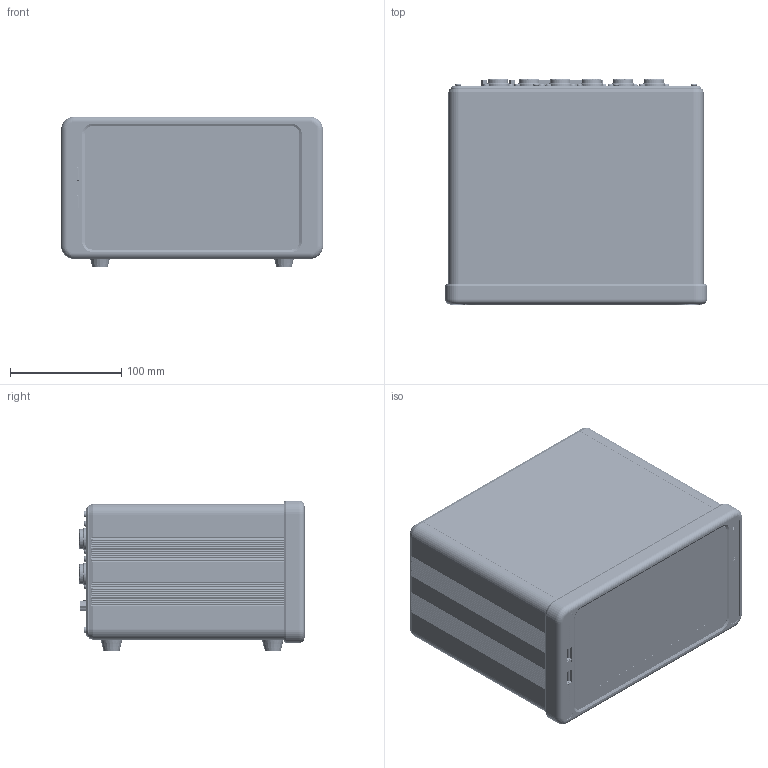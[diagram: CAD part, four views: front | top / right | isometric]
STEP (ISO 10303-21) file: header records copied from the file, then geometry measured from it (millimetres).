
FILE_DESCRIPTION(('STEP AP203'),'1');
FILE_NAME('WB-120N.stp','2023-04-04T02:16:44',(' '),(' '),'Spatial InterOp 3D',' ',' ');
FILE_SCHEMA(('CONFIG_CONTROL_DESIGN'));
Length unit declared in the file: millimetre
Products named in the file (28): 220208_WB40N_HBT_EX_ASM; 220209_40N_BOLT-M3_6; 190219_WB40N_CONNECTOR_RING; 190219_WB40N_CUBE_CONNECTOR; 190219_WB40N_CASE_HBT_REAR; WB-120N; 220209_120N_BOLT-M3_6; 120G_CASE_TOP; 120G_CASE_SIDE; 120G_CASE_BOTTOM; 120N_CASE_REAR; D-SUB37P; D-SUB9P; 220214_WB40N_ADAPTER; 220214_WB40N_SWITCH; 120N_FOOT; 120G_FRONT_LCD; 120G_CASE_FRONT; 120N_SILK; 120N_SILK_MODEL; 120G_USB_CONNECTOR
Assembly tree (48 placements, depth 3):
  WB-120N
    220208_WB40N_HBT_EX_ASM  x12
      220209_40N_BOLT-M3_6
      190219_WB40N_CONNECTOR_RING
      190219_WB40N_CUBE_CONNECTOR
      190219_WB40N_CASE_HBT_REAR
    220209_120N_BOLT-M3_6  x8
    120G_CASE_TOP
    120G_CASE_SIDE  x2
    120G_CASE_BOTTOM
    120N_CASE_REAR
    D-SUB37P
    D-SUB9P
    220214_WB40N_ADAPTER
    220214_WB40N_SWITCH
    120N_FOOT
    120N_FOOT
    120N_FOOT
    120N_FOOT
    120G_FRONT_LCD
    120G_CASE_FRONT
    120G_CASE_FRONT
    120G_CASE_FRONT
    120G_CASE_FRONT
    120G_CASE_FRONT
    120N_SILK
    120N_SILK_MODEL
    120G_USB_CONNECTOR  x2
Bounding box: 235.5 x 202.3 x 135.5 mm (x, y, z)
Volume: 922140.9 mm3; surface area: 573132.2 mm2
Topology: 90 solids, 105 shells, 5942 faces, 14806 edges, 9682 vertices
Faces by surface type: plane 2726, cylinder 2456, torus 332, cone 234, sphere 128, bspline 66
Full cylindrical faces by diameter (mm): 2.5 x8
Entity records: 92428 total; most frequent: CARTESIAN_POINT 16941, DIRECTION 15946, ORIENTED_EDGE 14780, EDGE_CURVE 7398, AXIS2_PLACEMENT_3D 5633, VERTEX_POINT 4884, LINE 4680, VECTOR 4680
